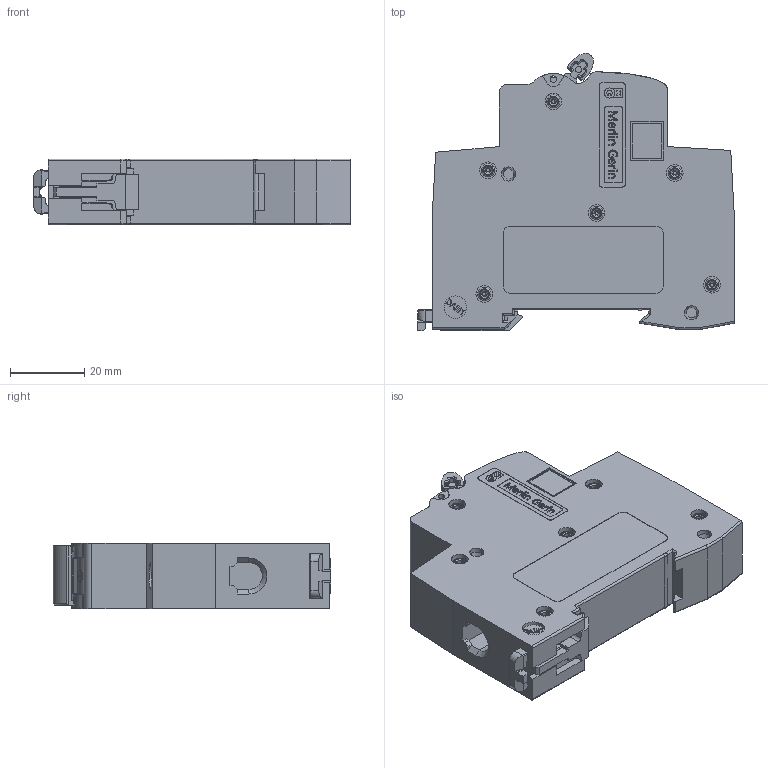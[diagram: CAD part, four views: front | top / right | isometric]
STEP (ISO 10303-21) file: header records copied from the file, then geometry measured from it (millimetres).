
FILE_DESCRIPTION (( 'STEP AP214' ), '1' );
FILE_NAME ('Circuit breaker Schneider Electric BA63 161C 1P 16 A 4.5 kA.STEP', '2024-05-13T21:04:48', ( '' ), ( '' ), 'SwSTEP 2.0', 'SolidWorks 2020', '' );
FILE_SCHEMA (( 'AUTOMOTIVE_DESIGN' ));
Length unit declared in the file: millimetre
Products named in the file (5): Lever arm; Plastic overlay; Circuit breaker Schneider Electric BA63 161C 1P 16 A 4.5 kA; Latch; Circuit breaker Schneider Electric BA63
Assembly tree (4 placements, depth 2):
  Circuit breaker Schneider Electric BA63 161C 1P 16 A 4.5 kA
    Circuit breaker Schneider Electric BA63
    Plastic overlay
    Latch
    Lever arm
Bounding box: 85.05 x 74.45 x 17.7 mm (x, y, z)
Volume: 78068.3 mm3; surface area: 20410 mm2
Topology: 4 solids, 4 shells, 1769 faces, 4581 edges, 2996 vertices
Faces by surface type: plane 961, bspline 490, cylinder 230, cone 50, torus 38
Entity records: 80493 total; most frequent: CARTESIAN_POINT 36322, ORIENTED_EDGE 9142, DIRECTION 6543, EDGE_CURVE 4571, VERTEX_POINT 2996, LINE 2887, VECTOR 2887, EDGE_LOOP 1961
